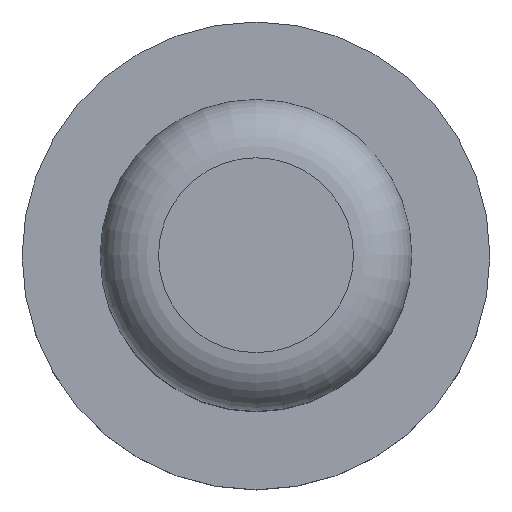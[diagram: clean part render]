
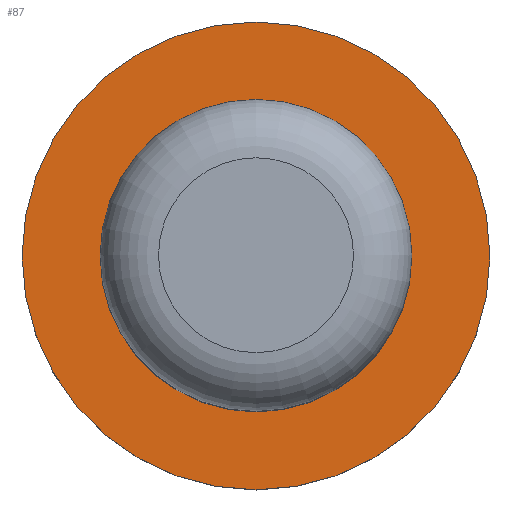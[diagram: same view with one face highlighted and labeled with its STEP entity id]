
A CAD part, top view. The second image highlights one B-rep face of the part: STEP entity #87.
In plain terms, the highlighted planar face has unit normal (0, 0, 1).
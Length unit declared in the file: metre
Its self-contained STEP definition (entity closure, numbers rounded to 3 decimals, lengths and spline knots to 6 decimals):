
#16=PLANE('',#113);
#23=ORIENTED_EDGE('',*,*,#35,.T.);
#24=ORIENTED_EDGE('',*,*,#36,.F.);
#35=EDGE_CURVE('',#42,#42,#49,.T.);
#36=EDGE_CURVE('',#43,#43,#50,.T.);
#42=VERTEX_POINT('',#165);
#43=VERTEX_POINT('',#168);
#49=CIRCLE('',#112,0.002);
#50=CIRCLE('',#114,0.003);
#58=EDGE_LOOP('',(#23));
#59=EDGE_LOOP('',(#24));
#72=FACE_BOUND('',#58,.T.);
#73=FACE_BOUND('',#59,.T.);
#87=ADVANCED_FACE('',(#72,#73),#16,.T.);
#112=AXIS2_PLACEMENT_3D('',#164,#137,#138);
#113=AXIS2_PLACEMENT_3D('',#166,#139,#140);
#114=AXIS2_PLACEMENT_3D('',#167,#141,#142);
#137=DIRECTION('',(0.,0.,-1.));
#138=DIRECTION('',(-1.,0.,0.));
#139=DIRECTION('',(0.,0.,1.));
#140=DIRECTION('',(1.,0.,0.));
#141=DIRECTION('',(0.,0.,-1.));
#142=DIRECTION('',(-1.,0.,0.));
#164=CARTESIAN_POINT('',(0.,0.,0.001));
#165=CARTESIAN_POINT('',(-0.002,0.,0.001));
#166=CARTESIAN_POINT('',(0.,-0.0025,0.001));
#167=CARTESIAN_POINT('',(0.,0.,0.001));
#168=CARTESIAN_POINT('',(-0.003,0.,0.001));
